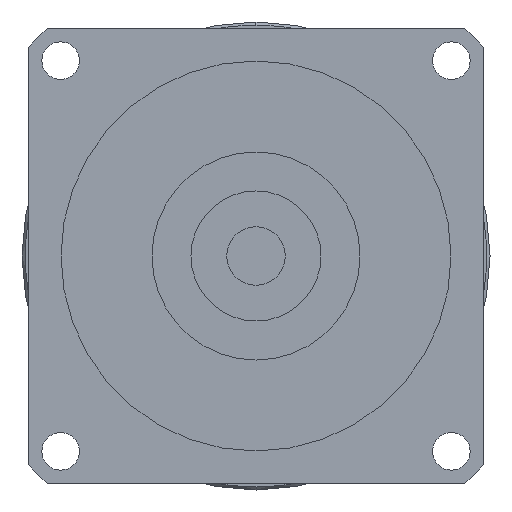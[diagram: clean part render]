
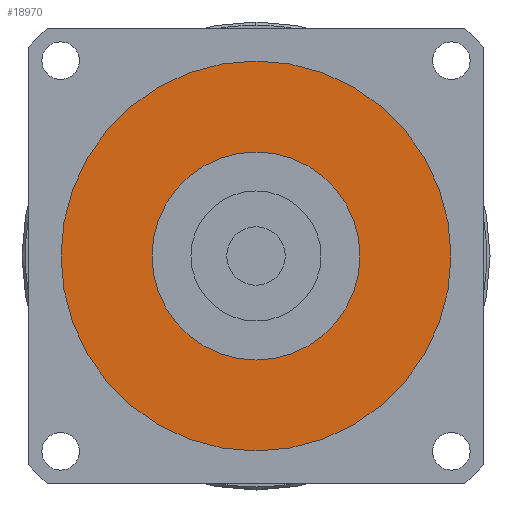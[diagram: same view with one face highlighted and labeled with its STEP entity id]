
A CAD part, left-side view. The second image highlights one B-rep face of the part: STEP entity #18970.
In plain terms, the highlighted planar face has unit normal (-1, 0, 0) as drawn and (0, 0, -1) by its records, which use the part's own axes.
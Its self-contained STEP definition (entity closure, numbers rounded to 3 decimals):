
#18390=CARTESIAN_POINT('',(-30.,0.,-89.5));
#18400=VERTEX_POINT('',#18390);
#18490=CARTESIAN_POINT('',(30.,0.,-89.5));
#18500=VERTEX_POINT('',#18490);
#18530=CARTESIAN_POINT('',(0.,0.,
-89.5));
#18540=DIRECTION('',(0.,0.,1.));
#18550=DIRECTION('',(0.,-1.,0.));
#18560=AXIS2_PLACEMENT_3D('',#18530,#18540,#18550);
#18570=CIRCLE('',#18560,30.);
#18580=CARTESIAN_POINT('',(0.,-30.,-89.5));
#18590=VERTEX_POINT('',#18580);
#18600=EDGE_CURVE('',#18590,#18500,#18570,.T.);
#18620=EDGE_CURVE('',#18400,#18590,#18570,.T.);
#18670=CARTESIAN_POINT('',(0.,0.,
-89.5));
#18680=DIRECTION('',(0.,0.,1.));
#18690=DIRECTION('',(-1.,0.,0.));
#18700=AXIS2_PLACEMENT_3D('',#18670,#18680,#18690);
#18710=PLANE('',#18700);
#18720=ORIENTED_EDGE('',*,*,#18600,.F.);
#18730=EDGE_CURVE('',#18500,#18400,#18570,.T.);
#18740=ORIENTED_EDGE('',*,*,#18730,.F.);
#18750=ORIENTED_EDGE('',*,*,#18620,.F.);
#18760=EDGE_LOOP('',(#18750,#18740,#18720));
#18770=FACE_OUTER_BOUND('',#18760,.T.);
#18780=CARTESIAN_POINT('',(0.,0.,
-89.5));
#18790=DIRECTION('',(0.,0.,1.));
#18800=DIRECTION('',(0.,-1.,0.));
#18810=AXIS2_PLACEMENT_3D('',#18780,#18790,#18800);
#18820=CIRCLE('',#18810,16.);
#18830=CARTESIAN_POINT('',(16.,0.,-89.5));
#18840=VERTEX_POINT('',#18830);
#18850=CARTESIAN_POINT('',(-16.,0.,-89.5));
#18860=VERTEX_POINT('',#18850);
#18870=EDGE_CURVE('',#18840,#18860,#18820,.T.);
#18880=ORIENTED_EDGE('',*,*,#18870,.T.);
#18890=CARTESIAN_POINT('',(0.,-16.,-89.5));
#18900=VERTEX_POINT('',#18890);
#18910=EDGE_CURVE('',#18900,#18840,#18820,.T.);
#18920=ORIENTED_EDGE('',*,*,#18910,.T.);
#18930=EDGE_CURVE('',#18860,#18900,#18820,.T.);
#18940=ORIENTED_EDGE('',*,*,#18930,.T.);
#18950=EDGE_LOOP('',(#18940,#18920,#18880));
#18960=FACE_BOUND('',#18950,.T.);
#18970=ADVANCED_FACE('',(#18770,#18960),#18710,.F.);
